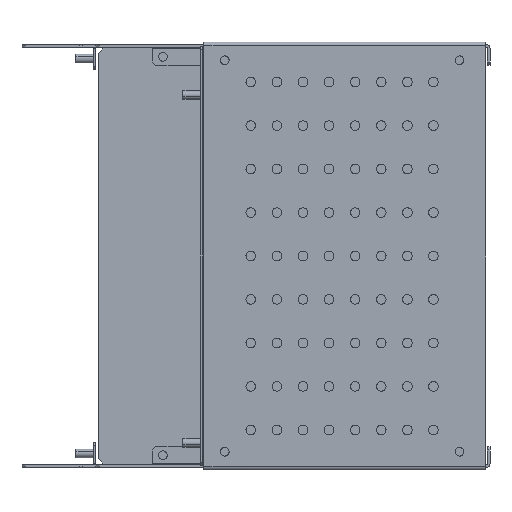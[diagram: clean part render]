
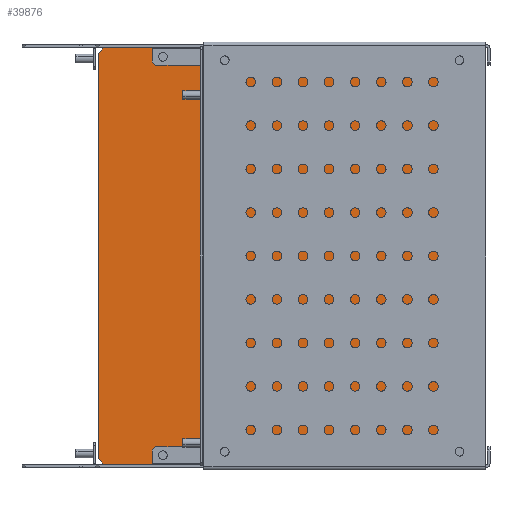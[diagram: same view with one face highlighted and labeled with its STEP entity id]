
A CAD part, front view. The second image highlights one B-rep face of the part: STEP entity #39876.
In plain terms, the highlighted planar face has unit normal (0, -1, 0) as drawn and (0, 0, 1) by its records, which use the part's own axes.
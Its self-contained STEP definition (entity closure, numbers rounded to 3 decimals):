
#38441=CARTESIAN_POINT(' ',(71.25,-114.5,0.));
#38442=VERTEX_POINT(' ',#38441);
#38456=CARTESIAN_POINT(' ',(74.,-114.5,0.));
#38461=DIRECTION(' ',(0.,-0.,1.));
#38466=DIRECTION(' ',(-1.,0.,0.));
#38471=AXIS2_PLACEMENT_3D(' ',#38456,#38461,#38466);
#38476=CIRCLE('',#38471,2.75);
#38481=CARTESIAN_POINT(' ',(76.75,-114.5,0.));
#38482=VERTEX_POINT(' ',#38481);
#38486=EDGE_CURVE(' ',#38442,#38482,#38476,.T.);
#39221=CARTESIAN_POINT(' ',(74.,-114.5,0.));
#39226=DIRECTION(' ',(0.,0.,1.));
#39231=DIRECTION(' ',(1.,0.,0.));
#39236=AXIS2_PLACEMENT_3D(' ',#39221,#39226,#39231);
#39241=CIRCLE('',#39236,2.75);
#39246=EDGE_CURVE(' ',#38482,#38442,#39241,.T.);
#39271=DIRECTION(' ',(-0.,0.,1.));
#39276=CARTESIAN_POINT(' ',(-111.,-121.5,0.));
#39281=DIRECTION(' ',(1.,0.,0.));
#39286=AXIS2_PLACEMENT_3D(' ',#39276,#39271,#39281);
#39291=PLANE('NONE',#39286);
#39296=CARTESIAN_POINT(' ',(-111.,116.5,0.));
#39301=DIRECTION(' ',(0.,-1.,0.));
#39306=VECTOR(' ',#39301,1.);
#39311=LINE('',#39296,#39306);
#39316=CARTESIAN_POINT(' ',(-111.,116.5,0.));
#39317=VERTEX_POINT(' ',#39316);
#39321=CARTESIAN_POINT(' ',(-111.,-116.5,0.));
#39322=VERTEX_POINT(' ',#39321);
#39326=EDGE_CURVE(' ',#39317,#39322,#39311,.T.);
#39331=ORIENTED_EDGE(' ',*,*,#39326,.T.);
#39336=CARTESIAN_POINT(' ',(-111.,-116.5,0.));
#39341=DIRECTION(' ',(0.707,-0.707,0.));
#39346=VECTOR(' ',#39341,1.);
#39351=LINE('',#39336,#39346);
#39356=CARTESIAN_POINT(' ',(-106.,-121.5,0.));
#39357=VERTEX_POINT(' ',#39356);
#39361=EDGE_CURVE(' ',#39322,#39357,#39351,.T.);
#39366=ORIENTED_EDGE(' ',*,*,#39361,.T.);
#39371=CARTESIAN_POINT(' ',(-106.,-121.5,0.));
#39376=DIRECTION(' ',(1.,0.,0.));
#39381=VECTOR(' ',#39376,1.);
#39386=LINE('',#39371,#39381);
#39391=CARTESIAN_POINT(' ',(106.,-121.5,0.));
#39392=VERTEX_POINT(' ',#39391);
#39396=EDGE_CURVE(' ',#39357,#39392,#39386,.T.);
#39401=ORIENTED_EDGE(' ',*,*,#39396,.T.);
#39406=CARTESIAN_POINT(' ',(106.,-121.5,0.));
#39411=DIRECTION(' ',(0.707,0.707,0.));
#39416=VECTOR(' ',#39411,1.);
#39421=LINE('',#39406,#39416);
#39426=CARTESIAN_POINT(' ',(111.,-116.5,0.));
#39427=VERTEX_POINT(' ',#39426);
#39431=EDGE_CURVE(' ',#39392,#39427,#39421,.T.);
#39436=ORIENTED_EDGE(' ',*,*,#39431,.T.);
#39441=CARTESIAN_POINT(' ',(111.,-116.5,0.));
#39446=DIRECTION(' ',(0.,1.,0.));
#39451=VECTOR(' ',#39446,1.);
#39456=LINE('',#39441,#39451);
#39461=CARTESIAN_POINT(' ',(111.,116.5,0.));
#39462=VERTEX_POINT(' ',#39461);
#39466=EDGE_CURVE(' ',#39427,#39462,#39456,.T.);
#39471=ORIENTED_EDGE(' ',*,*,#39466,.T.);
#39476=CARTESIAN_POINT(' ',(111.,116.5,0.));
#39481=DIRECTION(' ',(-0.707,0.707,0.));
#39486=VECTOR(' ',#39481,1.);
#39491=LINE('',#39476,#39486);
#39496=CARTESIAN_POINT(' ',(106.,121.5,0.));
#39497=VERTEX_POINT(' ',#39496);
#39501=EDGE_CURVE(' ',#39462,#39497,#39491,.T.);
#39506=ORIENTED_EDGE(' ',*,*,#39501,.T.);
#39511=CARTESIAN_POINT(' ',(106.,121.5,0.));
#39516=DIRECTION(' ',(-1.,0.,0.));
#39521=VECTOR(' ',#39516,1.);
#39526=LINE('',#39511,#39521);
#39531=CARTESIAN_POINT(' ',(-106.,121.5,0.));
#39532=VERTEX_POINT(' ',#39531);
#39536=EDGE_CURVE(' ',#39497,#39532,#39526,.T.);
#39541=ORIENTED_EDGE(' ',*,*,#39536,.T.);
#39546=CARTESIAN_POINT(' ',(-106.,121.5,0.));
#39551=DIRECTION(' ',(-0.707,-0.707,0.));
#39556=VECTOR(' ',#39551,1.);
#39561=LINE('',#39546,#39556);
#39566=EDGE_CURVE(' ',#39532,#39317,#39561,.T.);
#39571=ORIENTED_EDGE(' ',*,*,#39566,.T.);
#39576=EDGE_LOOP(' ',(#39331,#39366,#39401,#39436,#39471,#39506,#39541,#39571));
#39581=FACE_OUTER_BOUND(' ',#39576,.T.);
#39586=ORIENTED_EDGE(' ',*,*,#39246,.F.);
#39591=ORIENTED_EDGE(' ',*,*,#38486,.F.);
#39596=EDGE_LOOP(' ',(#39586,#39591));
#39601=FACE_BOUND(' ',#39596,.T.);
#39606=CARTESIAN_POINT(' ',(74.,114.5,0.));
#39611=DIRECTION(' ',(0.,0.,1.));
#39616=DIRECTION(' ',(1.,0.,0.));
#39621=AXIS2_PLACEMENT_3D(' ',#39606,#39611,#39616);
#39626=CIRCLE('',#39621,2.75);
#39631=CARTESIAN_POINT(' ',(76.75,114.5,0.));
#39632=VERTEX_POINT(' ',#39631);
#39636=CARTESIAN_POINT(' ',(71.25,114.5,0.));
#39637=VERTEX_POINT(' ',#39636);
#39641=EDGE_CURVE(' ',#39632,#39637,#39626,.T.);
#39646=ORIENTED_EDGE(' ',*,*,#39641,.F.);
#39651=CARTESIAN_POINT(' ',(74.,114.5,0.));
#39656=DIRECTION(' ',(0.,-0.,1.));
#39661=DIRECTION(' ',(-1.,0.,0.));
#39666=AXIS2_PLACEMENT_3D(' ',#39651,#39656,#39661);
#39671=CIRCLE('',#39666,2.75);
#39676=EDGE_CURVE(' ',#39637,#39632,#39671,.T.);
#39681=ORIENTED_EDGE(' ',*,*,#39676,.F.);
#39686=EDGE_LOOP(' ',(#39646,#39681));
#39691=FACE_BOUND(' ',#39686,.T.);
#39696=CARTESIAN_POINT(' ',(-74.,114.5,0.));
#39701=DIRECTION(' ',(0.,0.,1.));
#39706=DIRECTION(' ',(1.,0.,0.));
#39711=AXIS2_PLACEMENT_3D(' ',#39696,#39701,#39706);
#39716=CIRCLE('',#39711,2.75);
#39721=CARTESIAN_POINT(' ',(-71.25,114.5,0.));
#39722=VERTEX_POINT(' ',#39721);
#39726=CARTESIAN_POINT(' ',(-76.75,114.5,0.));
#39727=VERTEX_POINT(' ',#39726);
#39731=EDGE_CURVE(' ',#39722,#39727,#39716,.T.);
#39736=ORIENTED_EDGE(' ',*,*,#39731,.F.);
#39741=CARTESIAN_POINT(' ',(-74.,114.5,0.));
#39746=DIRECTION(' ',(0.,-0.,1.));
#39751=DIRECTION(' ',(-1.,0.,0.));
#39756=AXIS2_PLACEMENT_3D(' ',#39741,#39746,#39751);
#39761=CIRCLE('',#39756,2.75);
#39766=EDGE_CURVE(' ',#39727,#39722,#39761,.T.);
#39771=ORIENTED_EDGE(' ',*,*,#39766,.F.);
#39776=EDGE_LOOP(' ',(#39736,#39771));
#39781=FACE_BOUND(' ',#39776,.T.);
#39786=CARTESIAN_POINT(' ',(-74.,-114.5,0.));
#39791=DIRECTION(' ',(0.,0.,1.));
#39796=DIRECTION(' ',(1.,0.,0.));
#39801=AXIS2_PLACEMENT_3D(' ',#39786,#39791,#39796);
#39806=CIRCLE('',#39801,2.75);
#39811=CARTESIAN_POINT(' ',(-71.25,-114.5,0.));
#39812=VERTEX_POINT(' ',#39811);
#39816=CARTESIAN_POINT(' ',(-76.75,-114.5,0.));
#39817=VERTEX_POINT(' ',#39816);
#39821=EDGE_CURVE(' ',#39812,#39817,#39806,.T.);
#39826=ORIENTED_EDGE(' ',*,*,#39821,.F.);
#39831=CARTESIAN_POINT(' ',(-74.,-114.5,0.));
#39836=DIRECTION(' ',(0.,-0.,1.));
#39841=DIRECTION(' ',(-1.,0.,0.));
#39846=AXIS2_PLACEMENT_3D(' ',#39831,#39836,#39841);
#39851=CIRCLE('',#39846,2.75);
#39856=EDGE_CURVE(' ',#39817,#39812,#39851,.T.);
#39861=ORIENTED_EDGE(' ',*,*,#39856,.F.);
#39866=EDGE_LOOP(' ',(#39826,#39861));
#39871=FACE_BOUND(' ',#39866,.T.);
#39876=ADVANCED_FACE('NONE',(#39581,#39601,#39691,#39781,#39871),#39291,.T.);
